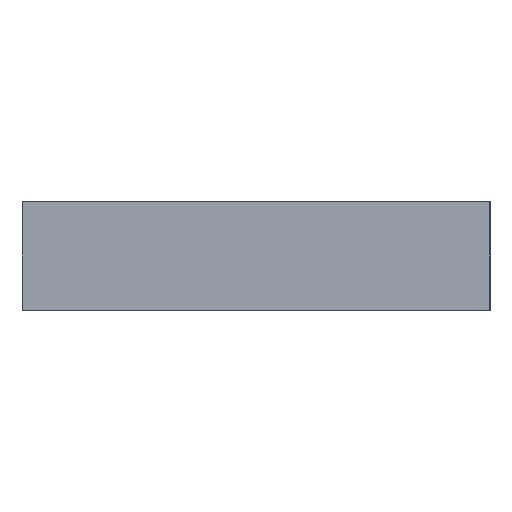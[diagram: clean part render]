
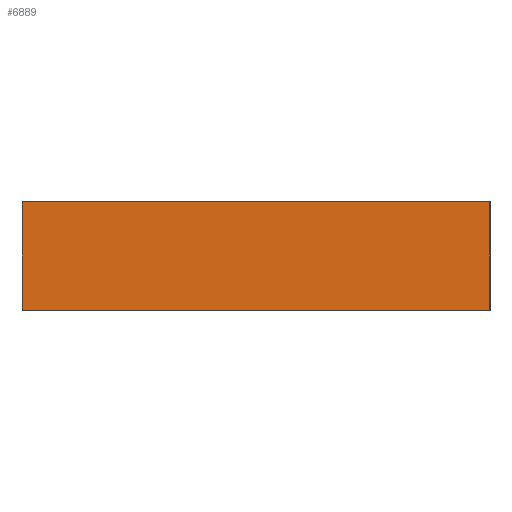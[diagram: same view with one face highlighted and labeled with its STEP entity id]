
A CAD part, left-side view. The second image highlights one B-rep face of the part: STEP entity #6889.
In plain terms, the highlighted planar face has unit normal (-1, 0, 0).
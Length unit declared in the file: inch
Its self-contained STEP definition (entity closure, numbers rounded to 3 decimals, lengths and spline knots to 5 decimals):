
#123 = VERTEX_POINT ( 'NONE', #8372 ) ;
#892 = CARTESIAN_POINT ( 'NONE',  ( -18.03125, 60.19034, -2.65625 ) ) ;
#1715 = CARTESIAN_POINT ( 'NONE',  ( -18.03125, 0., -2.65625 ) ) ;
#1910 = DIRECTION ( 'NONE',  ( 0., 0., 1. ) ) ;
#2473 = AXIS2_PLACEMENT_3D ( 'NONE', #8834, #7657, #1910 ) ;
#2659 = VERTEX_POINT ( 'NONE', #6447 ) ;
#2709 = CARTESIAN_POINT ( 'NONE',  ( -18.03125, 22.9375, 2.65625 ) ) ;
#3175 = DIRECTION ( 'NONE',  ( 0., 0., 1. ) ) ;
#3367 = ORIENTED_EDGE ( 'NONE', *, *, #9464, .T. ) ;
#3808 = CARTESIAN_POINT ( 'NONE',  ( -18.03125, 22.9375, -2.65625 ) ) ;
#3893 = LINE ( 'NONE', #5382, #6556 ) ;
#4187 = VERTEX_POINT ( 'NONE', #3808 ) ;
#5241 = LINE ( 'NONE', #1715, #5979 ) ;
#5382 = CARTESIAN_POINT ( 'NONE',  ( -18.03125, -0.56278, 2.65625 ) ) ;
#5661 = EDGE_LOOP ( 'NONE', ( #11695, #6637, #11048, #3367 ) ) ;
#5699 = EDGE_CURVE ( 'NONE', #4187, #12545, #8141, .T. ) ;
#5979 = VECTOR ( 'NONE', #13604, 39.37008 ) ;
#6447 = CARTESIAN_POINT ( 'NONE',  ( -18.03125, 0., 2.65625 ) ) ;
#6556 = VECTOR ( 'NONE', #7513, 39.37008 ) ;
#6571 = VECTOR ( 'NONE', #11752, 39.37008 ) ;
#6637 = ORIENTED_EDGE ( 'NONE', *, *, #9283, .T. ) ;
#6889 = ADVANCED_FACE ( 'NONE', ( #13953 ), #10244, .F. ) ;
#7513 = DIRECTION ( 'NONE',  ( 0., 1., 0. ) ) ;
#7657 = DIRECTION ( 'NONE',  ( 1., 0., 0. ) ) ;
#8141 = LINE ( 'NONE', #12864, #10315 ) ;
#8372 = CARTESIAN_POINT ( 'NONE',  ( -18.03125, 0., -2.65625 ) ) ;
#8834 = CARTESIAN_POINT ( 'NONE',  ( -18.03125, 0., -2.65625 ) ) ;
#9283 = EDGE_CURVE ( 'NONE', #2659, #12545, #3893, .T. ) ;
#9464 = EDGE_CURVE ( 'NONE', #4187, #123, #13980, .T. ) ;
#10244 = PLANE ( 'NONE',  #2473 ) ;
#10315 = VECTOR ( 'NONE', #3175, 39.37008 ) ;
#11048 = ORIENTED_EDGE ( 'NONE', *, *, #5699, .F. ) ;
#11695 = ORIENTED_EDGE ( 'NONE', *, *, #12165, .T. ) ;
#11752 = DIRECTION ( 'NONE',  ( 0., -1., 0. ) ) ;
#12165 = EDGE_CURVE ( 'NONE', #123, #2659, #5241, .T. ) ;
#12545 = VERTEX_POINT ( 'NONE', #2709 ) ;
#12864 = CARTESIAN_POINT ( 'NONE',  ( -18.03125, 22.9375, -2.65625 ) ) ;
#13604 = DIRECTION ( 'NONE',  ( 0., 0., 1. ) ) ;
#13953 = FACE_OUTER_BOUND ( 'NONE', #5661, .T. ) ;
#13980 = LINE ( 'NONE', #892, #6571 ) ;
